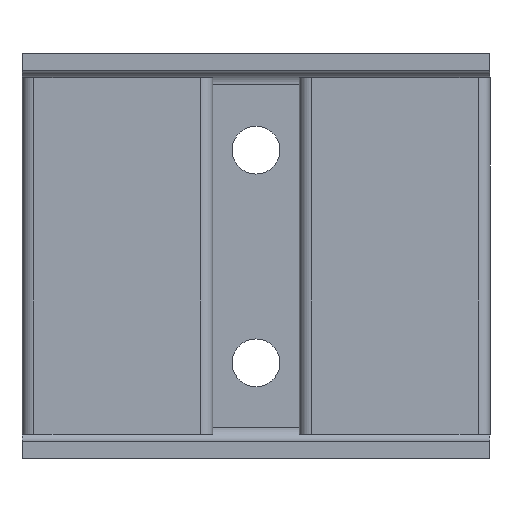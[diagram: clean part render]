
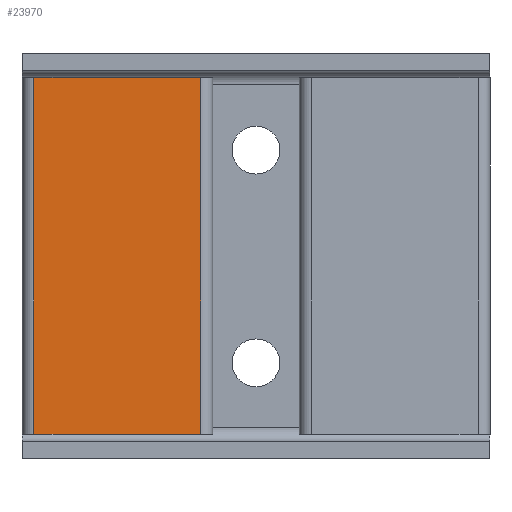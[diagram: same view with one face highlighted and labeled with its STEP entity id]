
A CAD part, top view. The second image highlights one B-rep face of the part: STEP entity #23970.
In plain terms, the highlighted planar face has unit normal (0, 0, 1).
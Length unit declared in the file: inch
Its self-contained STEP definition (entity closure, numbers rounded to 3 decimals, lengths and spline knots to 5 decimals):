
#186 = CARTESIAN_POINT ( 'NONE',  ( -0.325, 1.04688, 0.404 ) ) ;
#204 = DIRECTION ( 'NONE',  ( 0., 1., 0. ) ) ;
#577 = CARTESIAN_POINT ( 'NONE',  ( -1.305, 1.04688, 0.404 ) ) ;
#1492 = VECTOR ( 'NONE', #6433, 39.37008 ) ;
#2177 = VECTOR ( 'NONE', #15676, 39.37008 ) ;
#5007 = EDGE_CURVE ( 'NONE', #13292, #22928, #13285, .T. ) ;
#5444 = AXIS2_PLACEMENT_3D ( 'NONE', #11798, #13873, #7649 ) ;
#5668 = ORIENTED_EDGE ( 'NONE', *, *, #5007, .T. ) ;
#5734 = EDGE_CURVE ( 'NONE', #26850, #20177, #22072, .T. ) ;
#6433 = DIRECTION ( 'NONE',  ( 0., -1., 0. ) ) ;
#7649 = DIRECTION ( 'NONE',  ( 0., 1., 0. ) ) ;
#9668 = VECTOR ( 'NONE', #204, 39.37008 ) ;
#10015 = ORIENTED_EDGE ( 'NONE', *, *, #26406, .T. ) ;
#11352 = LINE ( 'NONE', #26349, #2177 ) ;
#11798 = CARTESIAN_POINT ( 'NONE',  ( -0.285, -1.04687, 0.404 ) ) ;
#13285 = LINE ( 'NONE', #577, #1492 ) ;
#13292 = VERTEX_POINT ( 'NONE', #18185 ) ;
#13781 = PLANE ( 'NONE',  #5444 ) ;
#13873 = DIRECTION ( 'NONE',  ( 0., 0., -1. ) ) ;
#14870 = ORIENTED_EDGE ( 'NONE', *, *, #24586, .T. ) ;
#14893 = ORIENTED_EDGE ( 'NONE', *, *, #5734, .T. ) ;
#15676 = DIRECTION ( 'NONE',  ( -1., 0., 0. ) ) ;
#16257 = DIRECTION ( 'NONE',  ( 1., 0., 0. ) ) ;
#17626 = CARTESIAN_POINT ( 'NONE',  ( -0.325, -1.04687, 0.404 ) ) ;
#18185 = CARTESIAN_POINT ( 'NONE',  ( -1.305, 1.04688, 0.404 ) ) ;
#18733 = EDGE_LOOP ( 'NONE', ( #5668, #10015, #14893, #14870 ) ) ;
#20177 = VERTEX_POINT ( 'NONE', #186 ) ;
#21904 = VECTOR ( 'NONE', #16257, 39.37008 ) ;
#22072 = LINE ( 'NONE', #23311, #9668 ) ;
#22385 = CARTESIAN_POINT ( 'NONE',  ( -1.345, -1.04687, 0.404 ) ) ;
#22928 = VERTEX_POINT ( 'NONE', #22938 ) ;
#22938 = CARTESIAN_POINT ( 'NONE',  ( -1.305, -1.04687, 0.404 ) ) ;
#23311 = CARTESIAN_POINT ( 'NONE',  ( -0.325, -1.04687, 0.404 ) ) ;
#23970 = ADVANCED_FACE ( 'NONE', ( #24405 ), #13781, .F. ) ;
#24405 = FACE_OUTER_BOUND ( 'NONE', #18733, .T. ) ;
#24586 = EDGE_CURVE ( 'NONE', #20177, #13292, #11352, .T. ) ;
#26151 = LINE ( 'NONE', #22385, #21904 ) ;
#26349 = CARTESIAN_POINT ( 'NONE',  ( -1.345, 1.04688, 0.404 ) ) ;
#26406 = EDGE_CURVE ( 'NONE', #22928, #26850, #26151, .T. ) ;
#26850 = VERTEX_POINT ( 'NONE', #17626 ) ;
